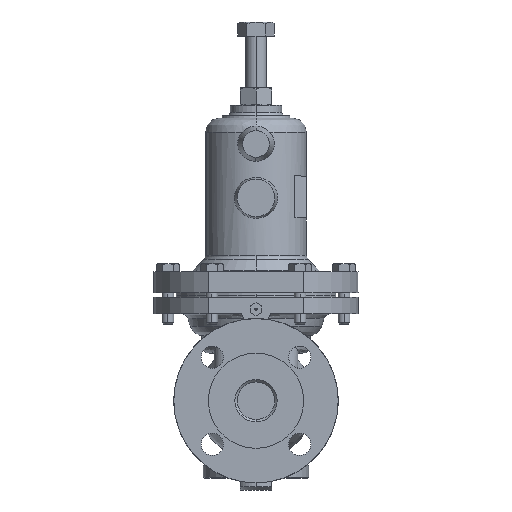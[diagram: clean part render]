
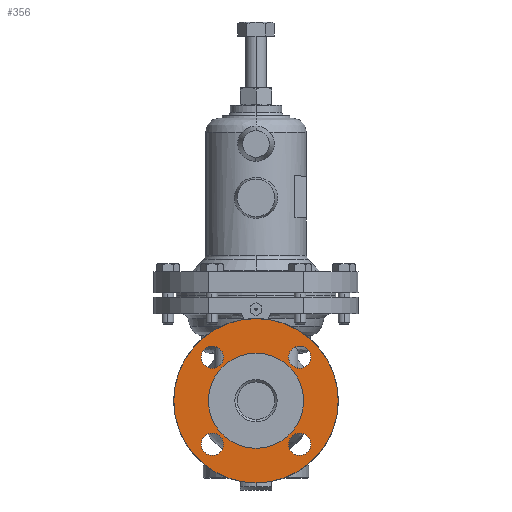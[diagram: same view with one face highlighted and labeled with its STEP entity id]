
A CAD part, left-side view. The second image highlights one B-rep face of the part: STEP entity #356.
In plain terms, the highlighted planar face has unit normal (-1, 0, 0).
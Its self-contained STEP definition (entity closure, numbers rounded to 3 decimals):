
#356=ADVANCED_FACE('',(#2739,#2740,#2741,#2742,#2743,#2744),#2738,.F.);
#2738=PLANE('',#7922);
#2739=FACE_OUTER_BOUND('',#7923,.T.);
#2740=FACE_BOUND('',#7924,.T.);
#2741=FACE_BOUND('',#7925,.T.);
#2742=FACE_BOUND('',#7926,.T.);
#2743=FACE_BOUND('',#7927,.T.);
#2744=FACE_BOUND('',#7928,.T.);
#7919=CARTESIAN_POINT('',(-95.5,-131.244,80.));
#7920=DIRECTION('',(1.,0.,0.));
#7921=DIRECTION('',(0.,0.,-1.));
#7922=AXIS2_PLACEMENT_3D('',#7919,#7920,#7921);
#7923=EDGE_LOOP('',(#11344,#11345));
#7924=EDGE_LOOP('',(#11346,#11347));
#7925=EDGE_LOOP('',(#11348,#11349));
#7926=EDGE_LOOP('',(#11350,#11351));
#7927=EDGE_LOOP('',(#11352,#11353));
#7928=EDGE_LOOP('',(#11354,#11355));
#11344=ORIENTED_EDGE('',*,*,#13387,.T.);
#11345=ORIENTED_EDGE('',*,*,#13388,.T.);
#11346=ORIENTED_EDGE('',*,*,#13389,.F.);
#11347=ORIENTED_EDGE('',*,*,#13390,.F.);
#11348=ORIENTED_EDGE('',*,*,#13391,.F.);
#11349=ORIENTED_EDGE('',*,*,#13392,.F.);
#11350=ORIENTED_EDGE('',*,*,#13393,.F.);
#11351=ORIENTED_EDGE('',*,*,#13394,.F.);
#11352=ORIENTED_EDGE('',*,*,#13395,.F.);
#11353=ORIENTED_EDGE('',*,*,#13396,.F.);
#11354=ORIENTED_EDGE('',*,*,#13397,.F.);
#11355=ORIENTED_EDGE('',*,*,#13398,.F.);
#13387=EDGE_CURVE('',#18125,#18126,#18127,.T.);
#13388=EDGE_CURVE('',#18126,#18125,#18133,.T.);
#13389=EDGE_CURVE('',#18139,#18140,#18141,.T.);
#13390=EDGE_CURVE('',#18140,#18139,#18147,.T.);
#13391=EDGE_CURVE('',#18153,#18154,#18155,.T.);
#13392=EDGE_CURVE('',#18154,#18153,#18161,.T.);
#13393=EDGE_CURVE('',#18167,#18168,#18169,.T.);
#13394=EDGE_CURVE('',#18168,#18167,#18175,.T.);
#13395=EDGE_CURVE('',#18181,#18182,#18183,.T.);
#13396=EDGE_CURVE('',#18182,#18181,#18189,.T.);
#13397=EDGE_CURVE('',#18195,#18196,#18197,.T.);
#13398=EDGE_CURVE('',#18196,#18195,#18203,.T.);
#18125=VERTEX_POINT('',#26482);
#18126=VERTEX_POINT('',#26483);
#18127=CIRCLE('',#26487,70.);
#18133=CIRCLE('',#26491,70.);
#18139=VERTEX_POINT('',#26492);
#18140=VERTEX_POINT('',#26493);
#18141=CIRCLE('',#26497,9.5);
#18147=CIRCLE('',#26501,9.5);
#18153=VERTEX_POINT('',#26502);
#18154=VERTEX_POINT('',#26503);
#18155=CIRCLE('',#26507,40.5);
#18161=CIRCLE('',#26511,40.5);
#18167=VERTEX_POINT('',#26512);
#18168=VERTEX_POINT('',#26513);
#18169=CIRCLE('',#26517,9.5);
#18175=CIRCLE('',#26521,9.5);
#18181=VERTEX_POINT('',#26522);
#18182=VERTEX_POINT('',#26523);
#18183=CIRCLE('',#26527,9.5);
#18189=CIRCLE('',#26531,9.5);
#18195=VERTEX_POINT('',#26532);
#18196=VERTEX_POINT('',#26533);
#18197=CIRCLE('',#26537,9.5);
#18203=CIRCLE('',#26541,9.5);
#26482=CARTESIAN_POINT('',(-95.5,0.,70.));
#26483=CARTESIAN_POINT('',(-95.5,0.,-70.));
#26484=CARTESIAN_POINT('',(-95.5,0.,0.));
#26485=DIRECTION('',(-1.,0.,0.));
#26486=DIRECTION('',(0.,0.,1.));
#26487=AXIS2_PLACEMENT_3D('',#26484,#26485,#26486);
#26488=CARTESIAN_POINT('',(-95.5,0.,0.));
#26489=DIRECTION('',(-1.,0.,0.));
#26490=DIRECTION('',(0.,0.,1.));
#26491=AXIS2_PLACEMENT_3D('',#26488,#26489,#26490);
#26492=CARTESIAN_POINT('',(-95.5,37.123,-27.623));
#26493=CARTESIAN_POINT('',(-95.5,37.123,-46.623));
#26494=CARTESIAN_POINT('',(-95.5,37.123,-37.123));
#26495=DIRECTION('',(-1.,0.,0.));
#26496=DIRECTION('',(0.,0.,-1.));
#26497=AXIS2_PLACEMENT_3D('',#26494,#26495,#26496);
#26498=CARTESIAN_POINT('',(-95.5,37.123,-37.123));
#26499=DIRECTION('',(-1.,0.,0.));
#26500=DIRECTION('',(0.,0.,-1.));
#26501=AXIS2_PLACEMENT_3D('',#26498,#26499,#26500);
#26502=CARTESIAN_POINT('',(-95.5,0.,-40.5));
#26503=CARTESIAN_POINT('',(-95.5,0.,40.5));
#26504=CARTESIAN_POINT('',(-95.5,0.,0.));
#26505=DIRECTION('',(-1.,0.,0.));
#26506=DIRECTION('',(0.,0.,1.));
#26507=AXIS2_PLACEMENT_3D('',#26504,#26505,#26506);
#26508=CARTESIAN_POINT('',(-95.5,0.,0.));
#26509=DIRECTION('',(-1.,0.,0.));
#26510=DIRECTION('',(0.,0.,1.));
#26511=AXIS2_PLACEMENT_3D('',#26508,#26509,#26510);
#26512=CARTESIAN_POINT('',(-95.5,-37.123,46.623));
#26513=CARTESIAN_POINT('',(-95.5,-37.123,27.623));
#26514=CARTESIAN_POINT('',(-95.5,-37.123,37.123));
#26515=DIRECTION('',(-1.,0.,0.));
#26516=DIRECTION('',(0.,0.,-1.));
#26517=AXIS2_PLACEMENT_3D('',#26514,#26515,#26516);
#26518=CARTESIAN_POINT('',(-95.5,-37.123,37.123));
#26519=DIRECTION('',(-1.,0.,0.));
#26520=DIRECTION('',(0.,0.,-1.));
#26521=AXIS2_PLACEMENT_3D('',#26518,#26519,#26520);
#26522=CARTESIAN_POINT('',(-95.5,37.123,46.623));
#26523=CARTESIAN_POINT('',(-95.5,37.123,27.623));
#26524=CARTESIAN_POINT('',(-95.5,37.123,37.123));
#26525=DIRECTION('',(-1.,0.,0.));
#26526=DIRECTION('',(0.,0.,-1.));
#26527=AXIS2_PLACEMENT_3D('',#26524,#26525,#26526);
#26528=CARTESIAN_POINT('',(-95.5,37.123,37.123));
#26529=DIRECTION('',(-1.,0.,0.));
#26530=DIRECTION('',(0.,0.,-1.));
#26531=AXIS2_PLACEMENT_3D('',#26528,#26529,#26530);
#26532=CARTESIAN_POINT('',(-95.5,-37.123,-27.623));
#26533=CARTESIAN_POINT('',(-95.5,-37.123,-46.623));
#26534=CARTESIAN_POINT('',(-95.5,-37.123,-37.123));
#26535=DIRECTION('',(-1.,0.,0.));
#26536=DIRECTION('',(0.,0.,-1.));
#26537=AXIS2_PLACEMENT_3D('',#26534,#26535,#26536);
#26538=CARTESIAN_POINT('',(-95.5,-37.123,-37.123));
#26539=DIRECTION('',(-1.,0.,0.));
#26540=DIRECTION('',(0.,0.,-1.));
#26541=AXIS2_PLACEMENT_3D('',#26538,#26539,#26540);
